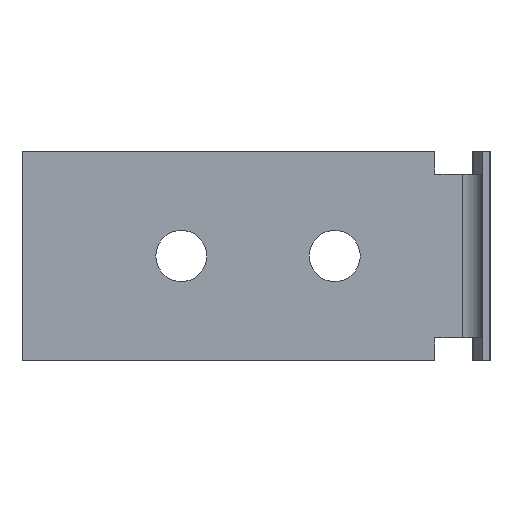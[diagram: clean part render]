
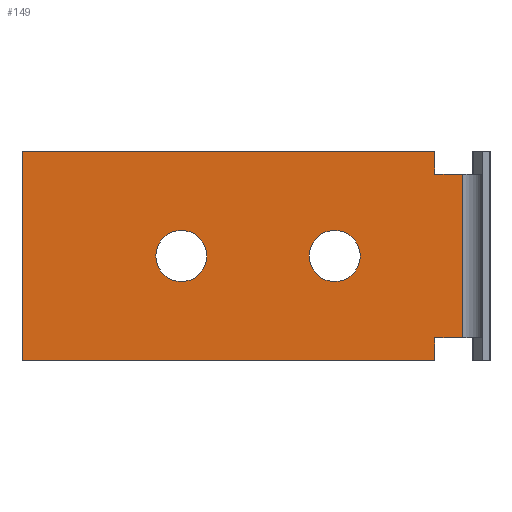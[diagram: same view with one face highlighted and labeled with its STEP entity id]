
A CAD part, left-side view. The second image highlights one B-rep face of the part: STEP entity #149.
In plain terms, the highlighted planar face has unit normal (-1, 0, 0).
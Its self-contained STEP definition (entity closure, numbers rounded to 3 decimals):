
#149 = ADVANCED_FACE( '', ( #341, #342, #343 ), #344, .F. );
#341 = FACE_BOUND( '', #577, .T. );
#342 = FACE_BOUND( '', #578, .T. );
#343 = FACE_OUTER_BOUND( '', #579, .T. );
#344 = PLANE( '', #580 );
#577 = EDGE_LOOP( '', ( #927 ) );
#578 = EDGE_LOOP( '', ( #928 ) );
#579 = EDGE_LOOP( '', ( #929, #930, #931, #932, #933, #934, #935, #936 ) );
#580 = AXIS2_PLACEMENT_3D( '', #937, #938, #939 );
#927 = ORIENTED_EDGE( '', *, *, #1536, .T. );
#928 = ORIENTED_EDGE( '', *, *, #1537, .T. );
#929 = ORIENTED_EDGE( '', *, *, #1538, .F. );
#930 = ORIENTED_EDGE( '', *, *, #1539, .T. );
#931 = ORIENTED_EDGE( '', *, *, #1540, .F. );
#932 = ORIENTED_EDGE( '', *, *, #1541, .T. );
#933 = ORIENTED_EDGE( '', *, *, #1542, .T. );
#934 = ORIENTED_EDGE( '', *, *, #1424, .T. );
#935 = ORIENTED_EDGE( '', *, *, #1543, .F. );
#936 = ORIENTED_EDGE( '', *, *, #1544, .F. );
#937 = CARTESIAN_POINT( '', ( 18.9, 45.8, 10.25 ) );
#938 = DIRECTION( '', ( 1., 0., 0. ) );
#939 = DIRECTION( '', ( 0., 1., 0. ) );
#1424 = EDGE_CURVE( '', #1688, #1692, #1694, .T. );
#1536 = EDGE_CURVE( '', #1888, #1888, #1889, .T. );
#1537 = EDGE_CURVE( '', #1890, #1890, #1891, .T. );
#1538 = EDGE_CURVE( '', #1892, #1893, #1894, .T. );
#1539 = EDGE_CURVE( '', #1892, #1895, #1896, .T. );
#1540 = EDGE_CURVE( '', #1897, #1895, #1898, .T. );
#1541 = EDGE_CURVE( '', #1897, #1899, #1900, .T. );
#1542 = EDGE_CURVE( '', #1899, #1688, #1901, .T. );
#1543 = EDGE_CURVE( '', #1902, #1692, #1903, .T. );
#1544 = EDGE_CURVE( '', #1893, #1902, #1904, .T. );
#1688 = VERTEX_POINT( '', #2086 );
#1692 = VERTEX_POINT( '', #2092 );
#1694 = LINE( '', #2095, #2096 );
#1888 = VERTEX_POINT( '', #2373 );
#1889 = CIRCLE( '', #2374, 2.5 );
#1890 = VERTEX_POINT( '', #2375 );
#1891 = CIRCLE( '', #2376, 2.5 );
#1892 = VERTEX_POINT( '', #2377 );
#1893 = VERTEX_POINT( '', #2378 );
#1894 = LINE( '', #2379, #2380 );
#1895 = VERTEX_POINT( '', #2381 );
#1896 = LINE( '', #2382, #2383 );
#1897 = VERTEX_POINT( '', #2384 );
#1898 = LINE( '', #2385, #2386 );
#1899 = VERTEX_POINT( '', #2387 );
#1900 = LINE( '', #2388, #2389 );
#1901 = LINE( '', #2390, #2391 );
#1902 = VERTEX_POINT( '', #2392 );
#1903 = LINE( '', #2393, #2394 );
#1904 = LINE( '', #2395, #2396 );
#2086 = CARTESIAN_POINT( '', ( 18.9, 5.4, -10.25 ) );
#2092 = CARTESIAN_POINT( '', ( 18.9, 5.4, -8. ) );
#2095 = CARTESIAN_POINT( '', ( 18.9, 5.4, 10.25 ) );
#2096 = VECTOR( '', #2653, 1000. );
#2373 = CARTESIAN_POINT( '', ( 18.9, 32.7, 0. ) );
#2374 = AXIS2_PLACEMENT_3D( '', #2773, #2774, #2775 );
#2375 = CARTESIAN_POINT( '', ( 18.9, 17.7, 0. ) );
#2376 = AXIS2_PLACEMENT_3D( '', #2776, #2777, #2778 );
#2377 = CARTESIAN_POINT( '', ( 18.9, 5.4, 8. ) );
#2378 = CARTESIAN_POINT( '', ( 18.9, 2.7, 8. ) );
#2379 = CARTESIAN_POINT( '', ( 18.9, 45.8, 8. ) );
#2380 = VECTOR( '', #2779, 1000. );
#2381 = CARTESIAN_POINT( '', ( 18.9, 5.4, 10.25 ) );
#2382 = CARTESIAN_POINT( '', ( 18.9, 5.4, 10.25 ) );
#2383 = VECTOR( '', #2780, 1000. );
#2384 = CARTESIAN_POINT( '', ( 18.9, 45.8, 10.25 ) );
#2385 = CARTESIAN_POINT( '', ( 18.9, 45.8, 10.25 ) );
#2386 = VECTOR( '', #2781, 1000. );
#2387 = CARTESIAN_POINT( '', ( 18.9, 45.8, -10.25 ) );
#2388 = CARTESIAN_POINT( '', ( 18.9, 45.8, 10.25 ) );
#2389 = VECTOR( '', #2782, 1000. );
#2390 = CARTESIAN_POINT( '', ( 18.9, 45.8, -10.25 ) );
#2391 = VECTOR( '', #2783, 1000. );
#2392 = CARTESIAN_POINT( '', ( 18.9, 2.7, -8. ) );
#2393 = CARTESIAN_POINT( '', ( 18.9, 45.8, -8. ) );
#2394 = VECTOR( '', #2784, 1000. );
#2395 = CARTESIAN_POINT( '', ( 18.9, 2.7, 10.25 ) );
#2396 = VECTOR( '', #2785, 1000. );
#2653 = DIRECTION( '', ( 0., 0., 1. ) );
#2773 = CARTESIAN_POINT( '', ( 18.9, 30.2, 0. ) );
#2774 = DIRECTION( '', ( 1., 0., 0. ) );
#2775 = DIRECTION( '', ( 0., 1., 0. ) );
#2776 = CARTESIAN_POINT( '', ( 18.9, 15.2, 0. ) );
#2777 = DIRECTION( '', ( 1., 0., 0. ) );
#2778 = DIRECTION( '', ( 0., 1., 0. ) );
#2779 = DIRECTION( '', ( 0., -1., 0. ) );
#2780 = DIRECTION( '', ( 0., 0., 1. ) );
#2781 = DIRECTION( '', ( 0., -1., 0. ) );
#2782 = DIRECTION( '', ( 0., 0., -1. ) );
#2783 = DIRECTION( '', ( 0., -1., 0. ) );
#2784 = DIRECTION( '', ( 0., 1., 0. ) );
#2785 = DIRECTION( '', ( 0., 0., -1. ) );
